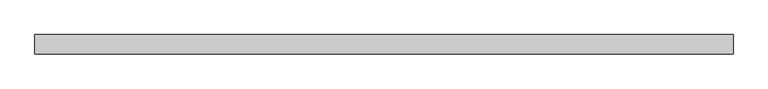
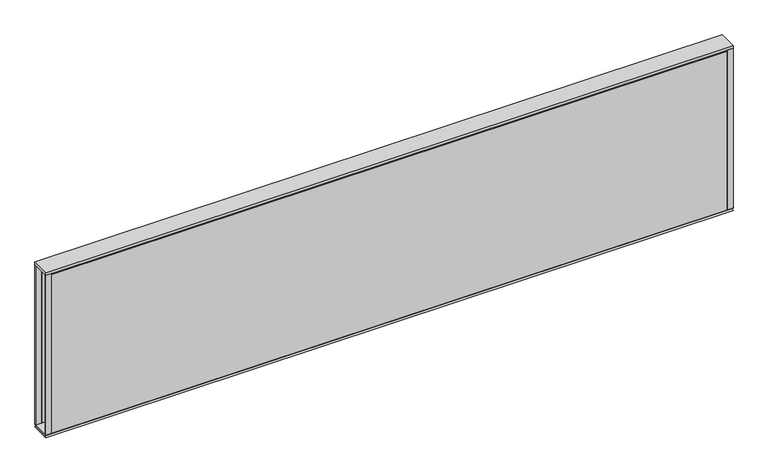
"""IFC4 building model written with IfcOpenShell, lengths in millimetres: furniture geometry, Steelcase - Kick Solutions - Panel - Stacker - Tackable Acoustical : 18H x 72W."""

from ifc_helpers import new_model, si_unit, frame, origin, place, context, project, spatial, polyline, outline, extrude, source, transform, mapped, element, save


def furniture_f445af2e(model_context):
    return source(origin(), model_context, "Body", "SweptSolid", [
        extrude(outline(polyline([(-50.7995075, 1073.2669139), (-0.000494, 1073.2669139), (-3.1752531, 1070.0921549), (-47.6247484, 1070.0921549), (-50.7995075, 1073.2669139)])), frame((0.0, 0.0, 0.0), z_axis=(1.0, 0.0, 0.0), x_axis=(0.0, 1.0, 0.0)), (0.0, 0.0, 1.0), 1828.8),
        extrude(outline(polyline([(0.0, 1073.2669139), (-3.1750015, 1073.2669139), (-3.1750015, 1524.1169018), (0.0, 1521.0357466), (0.0, 1073.2669139)])), frame((15.8749996, 0.0, 0.0), z_axis=(1.0, 0.0, 0.0), x_axis=(0.0, 1.0, 0.0)), (0.0, 0.0, 1.0), 1797.0500008),
        extrude(outline(polyline([(-50.8000015, 1073.2669139), (-50.8000015, 1521.0357466), (-47.625, 1524.1169018), (-47.625, 1073.2669139), (-50.8000015, 1073.2669139)])), frame((15.8749996, 0.0, 0.0), z_axis=(1.0, 0.0, 0.0), x_axis=(0.0, 1.0, 0.0)), (0.0, 0.0, 1.0), 1797.0500008),
        extrude(outline(polyline([(1828.8, -3.1750015), (1812.9250004, -3.1750015), (1812.9250004, 0.0), (1828.8, 0.0), (1828.8, -3.1750015)])), frame((0.0, 0.0, 1073.2669139), z_axis=(0.0, 0.0, 1.0), x_axis=(1.0, 0.0, 0.0)), (0.0, 0.0, 1.0), 450.8499879),
        extrude(outline(polyline([(15.8749996, -50.8000015), (0.0, -50.8000015), (0.0, -47.625), (15.8749996, -47.625), (15.8749996, -50.8000015)])), frame((0.0, 0.0, 1073.2669139), z_axis=(0.0, 0.0, 1.0), x_axis=(1.0, 0.0, 0.0)), (0.0, 0.0, 1.0), 450.8499879),
        extrude(outline(polyline([(1828.8, 0.0), (1828.8, -50.8000015), (0.0, -50.8000015), (0.0, 0.0), (1828.8, 0.0)])), frame((0.0, 0.0, 1524.1169018), z_axis=(0.0, 0.0, 1.0), x_axis=(1.0, 0.0, 0.0)), (0.0, 0.0, 1.0), 6.35),
        extrude(outline(polyline([(15.8749996, -3.1750015), (0.0, -3.1750015), (0.0, 0.0), (15.8749996, 0.0), (15.8749996, -3.1750015)])), frame((0.0, 0.0, 1073.2669139), z_axis=(0.0, 0.0, 1.0), x_axis=(1.0, 0.0, 0.0)), (0.0, 0.0, 1.0), 450.8499879),
        extrude(outline(polyline([(1828.8, -50.8000015), (1812.9250004, -50.8000015), (1812.9250004, -47.625), (1828.8, -47.625), (1828.8, -50.8000015)])), frame((0.0, 0.0, 1073.2669139), z_axis=(0.0, 0.0, 1.0), x_axis=(1.0, 0.0, 0.0)), (0.0, 0.0, 1.0), 450.8499879),
        extrude(outline(polyline([(-50.8000015, 1066.9169018), (-47.6247484, 1070.0921549), (-3.1752531, 1070.0921549), (0.0, 1066.9169018), (-50.8000015, 1066.9169018)])), frame((0.0, 0.0, 0.0), z_axis=(1.0, 0.0, 0.0), x_axis=(0.0, 1.0, 0.0)), (0.0, 0.0, 1.0), 1828.8),
    ])


if __name__ == "__main__":
    model = new_model("IFC4")
    model_context = context("Model", 3, world=origin())
    ifc_project = project(units=[si_unit("LENGTHUNIT", "METRE", prefix="MILLI")], contexts=[model_context])
    site = spatial("IfcSite", under=ifc_project)
    building = spatial("IfcBuilding", under=site)
    placement = place(None, origin())
    furniture_shape = furniture_f445af2e(model_context)
    element("IfcFurniture", 1, ObjectType="Steelcase - Kick Solutions - Panel - Stacker - Tackable Acoustical : 18H x 72W", at=placement, inside=building, context=model_context, shape_type="MappedRepresentation", body=[
        mapped(furniture_shape, transform((0.0, 0.0, 0.0), x_axis=(1.0, 0.0, 0.0), y_axis=(0.0, 1.0, 0.0), z_axis=(0.0, 0.0, 1.0))),
    ])
    save(model, "model.ifc")
